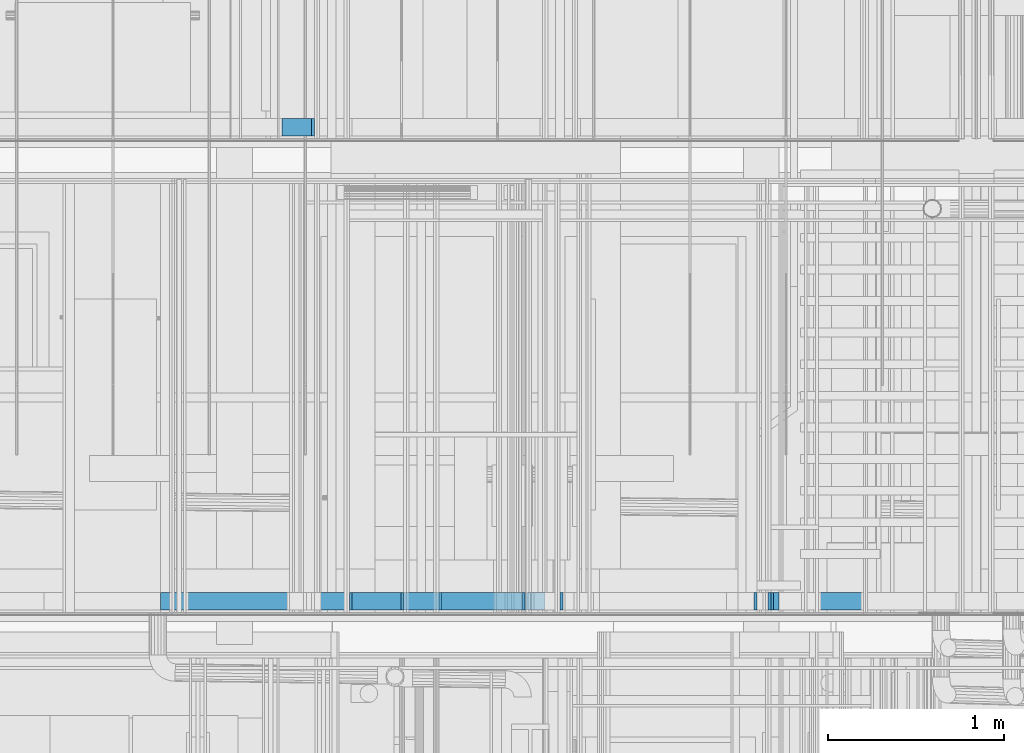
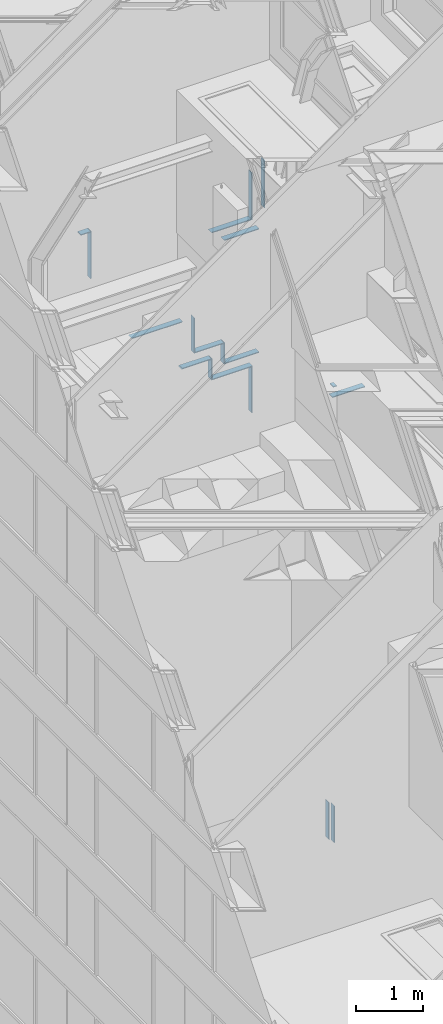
# One storey, part 238 of 583: 19 building element parts, 12 elements without a shape of their own.
"""IFC2X3 building model written with IfcOpenShell, lengths in metres."""

from ifc_helpers import new_model, entity, si_unit, converted_unit, derived_unit, money_unit, direction, frame, frame_2d, origin_with_axes, place, context, subcontext, project, spatial, polyline, rectangle, outline, extrude, material, type_object, element, aggregate, save


model = new_model("IFC2X3")

# Units and contexts
model_context = context("Model", 3, precision=1e-05, world=origin_with_axes(), true_north=direction((0.0, 1.0)))
body_context = subcontext(model_context, "Body", "Model", "MODEL_VIEW", scale=1.0)
ifc_project = project(units=[si_unit("LENGTHUNIT", "METRE"), si_unit("AREAUNIT", "SQUARE_METRE"), si_unit("VOLUMEUNIT", "CUBIC_METRE"), si_unit("ABSORBEDDOSEUNIT", "GRAY"), si_unit("AMOUNTOFSUBSTANCEUNIT", "MOLE"), si_unit("DOSEEQUIVALENTUNIT", "SIEVERT"), si_unit("ELECTRICCAPACITANCEUNIT", "FARAD"), si_unit("ELECTRICCHARGEUNIT", "COULOMB"), si_unit("ELECTRICCONDUCTANCEUNIT", "SIEMENS"), si_unit("ELECTRICCURRENTUNIT", "AMPERE"), si_unit("ELECTRICRESISTANCEUNIT", "OHM"), si_unit("ELECTRICVOLTAGEUNIT", "VOLT"), si_unit("ENERGYUNIT", "JOULE"), si_unit("FORCEUNIT", "NEWTON"), si_unit("FREQUENCYUNIT", "HERTZ"), si_unit("ILLUMINANCEUNIT", "LUX"), si_unit("INDUCTANCEUNIT", "HENRY"), si_unit("LUMINOUSFLUXUNIT", "LUMEN"), si_unit("LUMINOUSINTENSITYUNIT", "CANDELA"), si_unit("MAGNETICFLUXDENSITYUNIT", "TESLA"), si_unit("MAGNETICFLUXUNIT", "WEBER"), si_unit("MASSUNIT", "GRAM"), converted_unit("PLANEANGLEUNIT", "degree", entity("IfcReal", 0.0174532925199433), si_unit("PLANEANGLEUNIT", "RADIAN"), dimensions=[0, 0, 0, 0, 0, 0, 0]), si_unit("POWERUNIT", "WATT"), si_unit("PRESSUREUNIT", "PASCAL"), si_unit("RADIOACTIVITYUNIT", "BECQUEREL"), si_unit("SOLIDANGLEUNIT", "STERADIAN"), si_unit("THERMODYNAMICTEMPERATUREUNIT", "KELVIN"), si_unit("TIMEUNIT", "SECOND"), derived_unit("ACCELERATIONUNIT", [(si_unit("LENGTHUNIT", "METRE"), 1), (si_unit("TIMEUNIT", "SECOND"), -2)]), derived_unit("ANGULARVELOCITYUNIT", [(converted_unit("PLANEANGLEUNIT", "degree", entity("IfcReal", 0.0174532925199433), si_unit("PLANEANGLEUNIT", "RADIAN"), dimensions=[0, 0, 0, 0, 0, 0, 0]), 1), (si_unit("TIMEUNIT", "SECOND"), -1)]), derived_unit("CURVATUREUNIT", [(converted_unit("PLANEANGLEUNIT", "degree", entity("IfcReal", 0.0174532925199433), si_unit("PLANEANGLEUNIT", "RADIAN"), dimensions=[0, 0, 0, 0, 0, 0, 0]), 1), (si_unit("LENGTHUNIT", "METRE"), -1)]), derived_unit("DYNAMICVISCOSITYUNIT", [(si_unit("PRESSUREUNIT", "PASCAL"), 1), (si_unit("TIMEUNIT", "SECOND"), 1)]), derived_unit("HEATFLUXDENSITYUNIT", [(si_unit("POWERUNIT", "WATT"), 1), (si_unit("LENGTHUNIT", "METRE"), -2)]), derived_unit("HEATINGVALUEUNIT", [(si_unit("ENERGYUNIT", "JOULE"), 1), (si_unit("MASSUNIT", "GRAM"), -1)]), derived_unit("INTEGERCOUNTRATEUNIT", [(si_unit("TIMEUNIT", "SECOND"), -1)]), derived_unit("IONCONCENTRATIONUNIT", [(si_unit("MASSUNIT", "GRAM"), 1), (si_unit("VOLUMEUNIT", "CUBIC_METRE"), -1)]), derived_unit("ISOTHERMALMOISTURECAPACITYUNIT", [(si_unit("VOLUMEUNIT", "CUBIC_METRE"), 1), (si_unit("MASSUNIT", "GRAM"), -1)]), derived_unit("KINEMATICVISCOSITYUNIT", [(si_unit("AREAUNIT", "SQUARE_METRE"), 1), (si_unit("TIMEUNIT", "SECOND"), -1)]), derived_unit("LINEARFORCEUNIT", [(si_unit("FORCEUNIT", "NEWTON"), 1), (si_unit("LENGTHUNIT", "METRE"), -1)]), derived_unit("LINEARMOMENTUNIT", [(si_unit("FORCEUNIT", "NEWTON"), 1), (si_unit("LENGTHUNIT", "METRE"), -1)]), derived_unit("LINEARSTIFFNESSUNIT", [(si_unit("FORCEUNIT", "NEWTON"), 1), (si_unit("LENGTHUNIT", "METRE"), -1)]), derived_unit("LINEARVELOCITYUNIT", [(si_unit("LENGTHUNIT", "METRE"), 1), (si_unit("TIMEUNIT", "SECOND"), -1)]), derived_unit("LUMINOUSINTENSITYDISTRIBUTIONUNIT", [(si_unit("LUMINOUSINTENSITYUNIT", "CANDELA"), 1), (si_unit("LUMINOUSFLUXUNIT", "LUMEN"), -1)]), derived_unit("MASSDENSITYUNIT", [(si_unit("MASSUNIT", "GRAM"), 1), (si_unit("VOLUMEUNIT", "CUBIC_METRE"), -1)]), derived_unit("MASSFLOWRATEUNIT", [(si_unit("MASSUNIT", "GRAM"), 1), (si_unit("TIMEUNIT", "SECOND"), -1)]), derived_unit("MASSPERLENGTHUNIT", [(si_unit("MASSUNIT", "GRAM"), 1), (si_unit("LENGTHUNIT", "METRE"), -1)]), derived_unit("MODULUSOFELASTICITYUNIT", [(si_unit("FORCEUNIT", "NEWTON"), 1), (si_unit("AREAUNIT", "SQUARE_METRE"), -1)]), derived_unit("MODULUSOFLINEARSUBGRADEREACTIONUNIT", [(si_unit("FORCEUNIT", "NEWTON"), 1), (si_unit("LENGTHUNIT", "METRE"), -2)]), derived_unit("MODULUSOFROTATIONALSUBGRADEREACTIONUNIT", [(si_unit("FORCEUNIT", "NEWTON"), 1), (si_unit("LENGTHUNIT", "METRE"), 1)]), derived_unit("MODULUSOFSUBGRADEREACTIONUNIT", [(si_unit("FORCEUNIT", "NEWTON"), 1), (si_unit("VOLUMEUNIT", "CUBIC_METRE"), -1)]), derived_unit("MOISTUREDIFFUSIVITYUNIT", [(si_unit("VOLUMEUNIT", "CUBIC_METRE"), 1), (si_unit("TIMEUNIT", "SECOND"), -1)]), derived_unit("MOLECULARWEIGHTUNIT", [(si_unit("MASSUNIT", "GRAM"), 1), (si_unit("AMOUNTOFSUBSTANCEUNIT", "MOLE"), -1)]), derived_unit("PLANARFORCEUNIT", [(si_unit("FORCEUNIT", "NEWTON"), 1), (si_unit("LENGTHUNIT", "METRE"), -2)]), derived_unit("ROTATIONALFREQUENCYUNIT", [(si_unit("TIMEUNIT", "SECOND"), -1)]), derived_unit("ROTATIONALMASSUNIT", [(si_unit("MASSUNIT", "GRAM"), 1), (si_unit("LENGTHUNIT", "METRE"), 2)]), derived_unit("ROTATIONALSTIFFNESSUNIT", [(si_unit("FORCEUNIT", "NEWTON"), 1), (si_unit("LENGTHUNIT", "METRE"), 1), (converted_unit("PLANEANGLEUNIT", "degree", entity("IfcReal", 0.0174532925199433), si_unit("PLANEANGLEUNIT", "RADIAN"), dimensions=[0, 0, 0, 0, 0, 0, 0]), -1)]), derived_unit("SECTIONAREAINTEGRALUNIT", [(si_unit("LENGTHUNIT", "METRE"), 5)]), derived_unit("SECTIONMODULUSUNIT", [(si_unit("LENGTHUNIT", "METRE"), 3)]), derived_unit("SHEARMODULUSUNIT", [(si_unit("FORCEUNIT", "NEWTON"), 1), (si_unit("AREAUNIT", "SQUARE_METRE"), -1)]), derived_unit("SOUNDPOWERUNIT", [(si_unit("ENERGYUNIT", "JOULE"), 1), (si_unit("TIMEUNIT", "SECOND"), -1)]), derived_unit("SPECIFICHEATCAPACITYUNIT", [(si_unit("FORCEUNIT", "NEWTON"), 1), (si_unit("MASSUNIT", "GRAM"), -1), (si_unit("THERMODYNAMICTEMPERATUREUNIT", "KELVIN"), -1)]), derived_unit("TEMPERATUREGRADIENTUNIT", [(si_unit("THERMODYNAMICTEMPERATUREUNIT", "KELVIN"), 1), (si_unit("LENGTHUNIT", "METRE"), -1)]), derived_unit("THERMALADMITTANCEUNIT", [(si_unit("POWERUNIT", "WATT"), 1), (si_unit("AREAUNIT", "SQUARE_METRE"), -1), (si_unit("THERMODYNAMICTEMPERATUREUNIT", "KELVIN"), -1)]), derived_unit("THERMALCONDUCTANCEUNIT", [(si_unit("POWERUNIT", "WATT"), 1), (si_unit("LENGTHUNIT", "METRE"), -1), (si_unit("THERMODYNAMICTEMPERATUREUNIT", "KELVIN"), -1)]), derived_unit("THERMALEXPANSIONCOEFFICIENTUNIT", [(si_unit("THERMODYNAMICTEMPERATUREUNIT", "KELVIN"), -1)]), derived_unit("THERMALRESISTANCEUNIT", [(si_unit("AREAUNIT", "SQUARE_METRE"), 1), (si_unit("POWERUNIT", "WATT"), -1)]), derived_unit("THERMALTRANSMITTANCEUNIT", [(si_unit("POWERUNIT", "WATT"), 1), (si_unit("AREAUNIT", "SQUARE_METRE"), -1), (si_unit("THERMODYNAMICTEMPERATUREUNIT", "KELVIN"), -1)]), derived_unit("TORQUEUNIT", [(si_unit("FORCEUNIT", "NEWTON"), 1), (si_unit("LENGTHUNIT", "METRE"), 1)]), derived_unit("VAPORPERMEABILITYUNIT", [(si_unit("MASSUNIT", "GRAM"), 1), (si_unit("TIMEUNIT", "SECOND"), -1)]), derived_unit("VOLUMETRICFLOWRATEUNIT", [(si_unit("VOLUMEUNIT", "CUBIC_METRE"), 1), (si_unit("TIMEUNIT", "SECOND"), -1)]), derived_unit("WARPINGCONSTANTUNIT", [(si_unit("LENGTHUNIT", "METRE"), 6)]), derived_unit("WARPINGMOMENTUNIT", [(si_unit("FORCEUNIT", "NEWTON"), 1), (si_unit("LENGTHUNIT", "METRE"), 2)]), money_unit("GBP")], contexts=[model_context])

# Site, building, storey
site_placement = place(None, origin_with_axes())
site = spatial("IfcSite", under=ifc_project, at=site_placement, Name="Site", CompositionType="ELEMENT")
building_placement = place(site_placement, origin_with_axes())
building = spatial("IfcBuilding", under=site, at=building_placement, Name="Building01", CompositionType="ELEMENT")
storey_placement = place(building_placement, frame((0.0, 0.0, 20.78), z_axis=(0.0, 0.0, 1.0), x_axis=(1.0, 0.0, 0.0)))
storey = spatial("IfcBuildingStorey", under=building, at=storey_placement, Name="RL", CompositionType="ELEMENT", Elevation=20.78)

# Wall, building element parts
wall_type_1 = type_object("IfcWallType", Name="SHE_A-Walls_Type03a_BlockworkWall_170mm", PredefinedType="NOTDEFINED")
wall_1_placement = place(storey_placement, frame((6.263, 14.98, -9.635), z_axis=(0.0, 1.0, 0.0), x_axis=(1.0, 0.0, 0.0)))
wall_1 = element("IfcWall", 1, at=wall_1_placement, inside=storey, type_object=wall_type_1, Name="4B", ObjectType="SHE_A-Walls_Type03a_BlockworkWall_170mm")
ifc_material = material(Name="A_BSUK_Walls_Timber")
placement_1 = place(wall_1_placement, origin_with_axes())
building_element_part_1 = element("IfcBuildingElementPart", 2, at=placement_1, material=ifc_material, Name="2", context=body_context, shape_type="SweptSolid", body=[
    extrude(rectangle(XDim=0.557, YDim=0.015, at=frame_2d((0.2655, 0.0225), x_axis=(-1.0, 0.0))), frame((0.0, 0.0, 0.015), z_axis=(0.0, 0.0, 1.0), x_axis=(1.0, 0.0, 0.0)), (0.0, 0.0, 1.0), 0.1),
])
building_element_part_2 = element("IfcBuildingElementPart", 3, at=placement_1, material=ifc_material, Name="5", context=body_context, shape_type="SweptSolid", body=[
    extrude(rectangle(XDim=0.062, YDim=0.015, at=frame_2d((0.031, -0.1625), x_axis=(-1.0, 0.0))), frame((0.0, 0.0, 0.015), z_axis=(0.0, 0.0, 1.0), x_axis=(1.0, 0.0, 0.0)), (0.0, 0.0, 1.0), 0.1),
])
aggregate(wall_1, [building_element_part_1, building_element_part_2])

wall_type_2 = type_object("IfcWallType", Name="SHE_A-Walls_Type01d_Partywall_200mm_twin", PredefinedType="NOTDEFINED")
wall_2_placement = place(storey_placement, frame((5.005, 14.98, -8.53), z_axis=(0.0, 1.0, 0.0), x_axis=(-1.0, 0.0, 0.0)))
wall_2 = element("IfcWall", 4, at=wall_2_placement, inside=storey, type_object=wall_type_2, Name="1D", ObjectType="SHE_A-Walls_Type01d_Partywall_200mm_twin")
placement_2 = place(wall_2_placement, origin_with_axes())
building_element_part_3 = element("IfcBuildingElementPart", 5, at=placement_2, material=ifc_material, Name="2", context=body_context, shape_type="SweptSolid", body=[
    extrude(outline(polyline([(0.600572, 0.14), (0.012, 0.14), (0.012, 0.125), (0.615572, 0.125), (0.600572, 0.14)])), frame((0.0, 0.0, 0.015), z_axis=(0.0, 0.0, 1.0), x_axis=(1.0, 0.0, 0.0)), (0.0, 0.0, 1.0), 0.1),
])
building_element_part_4 = element("IfcBuildingElementPart", 6, at=placement_2, material=ifc_material, Name="7", context=body_context, shape_type="SweptSolid", body=[
    extrude(outline(polyline([(0.815572, -0.075), (0.125, -0.075), (0.125, -0.09), (0.830572, -0.09), (0.815572, -0.075)])), frame((0.0, 0.0, 0.015), z_axis=(0.0, 0.0, 1.0), x_axis=(1.0, 0.0, 0.0)), (0.0, 0.0, 1.0), 0.1),
])
aggregate(wall_2, [building_element_part_3, building_element_part_4])

wall_3_placement = place(storey_placement, frame((5.005, 14.98, -6.08), z_axis=(0.0, 1.0, 0.0), x_axis=(-1.0, 0.0, 0.0)))
wall_3 = element("IfcWall", 7, at=wall_3_placement, inside=storey, type_object=wall_type_2, Name="1D", ObjectType="SHE_A-Walls_Type01d_Partywall_200mm_twin")
placement_3 = place(wall_3_placement, origin_with_axes())
building_element_part_5 = element("IfcBuildingElementPart", 8, at=placement_3, material=ifc_material, Name="2", context=body_context, shape_type="SweptSolid", body=[
    extrude(outline(polyline([(0.830572, 0.14), (0.14, 0.14), (0.14, 0.125), (0.815572, 0.125), (0.830572, 0.14)])), frame((0.0, 0.0, 0.015), z_axis=(0.0, 0.0, 1.0), x_axis=(1.0, 0.0, 0.0)), (0.0, 0.0, 1.0), 0.1),
])
building_element_part_6 = element("IfcBuildingElementPart", 9, at=placement_3, material=ifc_material, Name="7", context=body_context, shape_type="SweptSolid", body=[
    extrude(outline(polyline([(0.615572, -0.075), (0.012, -0.075), (0.012, -0.09), (0.600572, -0.09), (0.615572, -0.075)])), frame((0.0, 0.0, 0.015), z_axis=(0.0, 0.0, 1.0), x_axis=(1.0, 0.0, 0.0)), (0.0, 0.0, 1.0), 0.1),
])
aggregate(wall_3, [building_element_part_5, building_element_part_6])

wall_type_3 = type_object("IfcWallType", Name="SHE_A-Walls_Type05b_Partition_80mm", PredefinedType="NOTDEFINED")
wall_4_placement = place(storey_placement, frame((6.227939, 14.98, -17.012889), z_axis=(0.0, 1.0, 0.0), x_axis=(0.0, 0.0, -1.0)))
wall_4 = element("IfcWall", 10, at=wall_4_placement, inside=storey, type_object=wall_type_3, Name="5B", ObjectType="SHE_A-Walls_Type05b_Partition_80mm")
placement_4 = place(wall_4_placement, origin_with_axes())
building_element_part_7 = element("IfcBuildingElementPart", 11, at=placement_4, material=ifc_material, Name="2", context=body_context, shape_type="SweptSolid", body=[
    extrude(outline(polyline([(0.632135, 0.043), (-0.043, 0.043), (-0.028, 0.028), (0.647135, 0.028), (0.632135, 0.043)])), frame((0.0, 0.0, 0.015), z_axis=(0.0, 0.0, 1.0), x_axis=(1.0, 0.0, 0.0)), (0.0, 0.0, 1.0), 0.1),
])
building_element_part_8 = element("IfcBuildingElementPart", 12, at=placement_4, material=ifc_material, Name="5", context=body_context, shape_type="SweptSolid", body=[
    extrude(outline(polyline([(0.052, -0.052), (0.067, -0.067), (0.727135, -0.067), (0.727135, -0.052), (0.052, -0.052)])), frame((0.0, 0.0, 0.015), z_axis=(0.0, 0.0, 1.0), x_axis=(1.0, 0.0, 0.0)), (0.0, 0.0, 1.0), 0.1),
])
aggregate(wall_4, [building_element_part_7, building_element_part_8])

# Wall, building element part
wall_5_placement = place(storey_placement, frame((3.805, 14.98, -7.305), z_axis=(0.0, 1.0, 0.0), x_axis=(-1.0, 0.0, 0.0)))
wall_5 = element("IfcWall", 13, at=wall_5_placement, inside=storey, type_object=wall_type_2, Name="1D", ObjectType="SHE_A-Walls_Type01d_Partywall_200mm_twin")
building_element_part_9_placement = place(wall_5_placement, origin_with_axes())
building_element_part_9 = element("IfcBuildingElementPart", 14, at=building_element_part_9_placement, material=ifc_material, Name="7", context=body_context, shape_type="SweptSolid", body=[
    extrude(outline(polyline([(1.000239, -0.075), (0.125, -0.075), (0.14, -0.09), (0.950239, -0.09), (1.000239, -0.075)])), frame((0.0, 0.0, 0.015), z_axis=(0.0, 0.0, 1.0), x_axis=(1.0, 0.0, 0.0)), (0.0, 0.0, 1.0), 0.1),
])
aggregate(wall_5, [building_element_part_9])

wall_6_placement = place(storey_placement, frame((3.78, 14.98, -8.13), z_axis=(0.0, 1.0, 0.0), x_axis=(0.0, 0.0, 1.0)))
wall_6 = element("IfcWall", 15, at=wall_6_placement, inside=storey, type_object=wall_type_2, Name="1D", ObjectType="SHE_A-Walls_Type01d_Partywall_200mm_twin")
building_element_part_10_placement = place(wall_6_placement, origin_with_axes())
building_element_part_10 = element("IfcBuildingElementPart", 16, at=building_element_part_10_placement, material=ifc_material, Name="2", context=body_context, shape_type="SweptSolid", body=[
    extrude(outline(polyline([(0.735, 0.115), (0.115, 0.115), (0.1, 0.1), (0.75, 0.1), (0.735, 0.115)])), frame((0.0, 0.0, 0.015), z_axis=(0.0, 0.0, 1.0), x_axis=(1.0, 0.0, 0.0)), (0.0, 0.0, 1.0), 0.1),
])
aggregate(wall_6, [building_element_part_10])

# Wall, building element parts
wall_7_placement = place(storey_placement, frame((4.264428, 14.98, -8.13), z_axis=(0.0, 1.0, 0.0), x_axis=(-1.0, 0.0, 0.0)))
wall_7 = element("IfcWall", 17, at=wall_7_placement, inside=storey, type_object=wall_type_2, Name="1D", ObjectType="SHE_A-Walls_Type01d_Partywall_200mm_twin")
placement_5 = place(wall_7_placement, origin_with_axes())
building_element_part_11 = element("IfcBuildingElementPart", 18, at=placement_5, material=ifc_material, Name="2", context=body_context, shape_type="SweptSolid", body=[
    extrude(outline(polyline([(0.369428, 0.115), (-0.125, 0.115), (-0.125, 0.1), (0.384428, 0.1), (0.369428, 0.115)])), frame((0.0, 0.0, 0.015), z_axis=(0.0, 0.0, 1.0), x_axis=(1.0, 0.0, 0.0)), (0.0, 0.0, 1.0), 0.1),
])
building_element_part_12 = element("IfcBuildingElementPart", 19, at=placement_5, material=ifc_material, Name="7", context=body_context, shape_type="SweptSolid", body=[
    extrude(outline(polyline([(0.584428, -0.1), (0.09, -0.1), (0.09, -0.115), (0.599428, -0.115), (0.584428, -0.1)])), frame((0.0, 0.0, 0.015), z_axis=(0.0, 0.0, 1.0), x_axis=(1.0, 0.0, 0.0)), (0.0, 0.0, 1.0), 0.1),
])
aggregate(wall_7, [building_element_part_11, building_element_part_12])

wall_8_placement = place(storey_placement, frame((4.314428, 14.98, -6.08), z_axis=(0.0, 1.0, 0.0), x_axis=(0.0, 0.0, -1.0)))
wall_8 = element("IfcWall", 20, at=wall_8_placement, inside=storey, type_object=wall_type_2, Name="1D", ObjectType="SHE_A-Walls_Type01d_Partywall_200mm_twin")
placement_6 = place(wall_8_placement, origin_with_axes())
building_element_part_13 = element("IfcBuildingElementPart", 21, at=placement_6, material=ifc_material, Name="9", context=body_context, shape_type="SweptSolid", body=[
    extrude(outline(polyline([(2.325, -0.075), (1.935, -0.075), (1.935, -0.09), (2.31, -0.09), (2.325, -0.075)])), frame((0.0, 0.0, 0.015), z_axis=(0.0, 0.0, 1.0), x_axis=(1.0, 0.0, 0.0)), (0.0, 0.0, 1.0), 0.1),
])
building_element_part_14 = element("IfcBuildingElementPart", 22, at=placement_6, material=ifc_material, Name="12", context=body_context, shape_type="SweptSolid", body=[
    extrude(outline(polyline([(2.54, 0.14), (2.15, 0.14), (2.15, 0.125), (2.525, 0.125), (2.54, 0.14)])), frame((0.0, 0.0, 0.015), z_axis=(0.0, 0.0, 1.0), x_axis=(1.0, 0.0, 0.0)), (0.0, 0.0, 1.0), 0.1),
])
aggregate(wall_8, [building_element_part_13, building_element_part_14])

wall_9_placement = place(storey_placement, frame((4.955, 14.98, -6.03), z_axis=(0.0, 1.0, 0.0), x_axis=(0.0, 0.0, 1.0)))
wall_9 = element("IfcWall", 23, at=wall_9_placement, inside=storey, type_object=wall_type_2, Name="1D", ObjectType="SHE_A-Walls_Type01d_Partywall_200mm_twin")
placement_7 = place(wall_9_placement, origin_with_axes())
building_element_part_15 = element("IfcBuildingElementPart", 24, at=placement_7, material=ifc_material, Name="2", context=body_context, shape_type="SweptSolid", body=[
    extrude(rectangle(XDim=0.854891, YDim=0.015, at=frame_2d((0.645994, 0.1325), x_axis=(-1.0, 0.0))), frame((0.0, 0.0, 0.015), z_axis=(0.0, 0.0, 1.0), x_axis=(1.0, 0.0, 0.0)), (0.0, 0.0, 1.0), 0.1),
])
building_element_part_16 = element("IfcBuildingElementPart", 25, at=placement_7, material=ifc_material, Name="7", context=body_context, shape_type="SweptSolid", body=[
    extrude(rectangle(XDim=0.85, YDim=0.015, at=frame_2d((0.5, -0.0825), x_axis=(-1.0, 0.0))), frame((0.0, 0.0, 0.015), z_axis=(0.0, 0.0, 1.0), x_axis=(1.0, 0.0, 0.0)), (0.0, 0.0, 1.0), 0.1),
])
aggregate(wall_9, [building_element_part_15, building_element_part_16])

# Wall, building element part
wall_10_placement = place(storey_placement, frame((4.955, 14.98, -11.565), z_axis=(0.0, 1.0, 0.0), x_axis=(0.0, 0.0, 1.0)))
wall_10 = element("IfcWall", 26, at=wall_10_placement, inside=storey, type_object=wall_type_2, Name="1D", ObjectType="SHE_A-Walls_Type01d_Partywall_200mm_twin")
building_element_part_17_placement = place(wall_10_placement, origin_with_axes())
building_element_part_17 = element("IfcBuildingElementPart", 27, at=building_element_part_17_placement, material=ifc_material, Name="8", context=body_context, shape_type="SweptSolid", body=[
    extrude(rectangle(XDim=0.835, YDim=0.015, at=frame_2d((2.5275, -0.0825), x_axis=(-1.0, 0.0))), frame((0.0, 0.0, 0.015), z_axis=(0.0, 0.0, 1.0), x_axis=(1.0, 0.0, 0.0)), (0.0, 0.0, 1.0), 0.1),
])
aggregate(wall_10, [building_element_part_17])

wall_11_placement = place(storey_placement, frame((3.755, 17.68, -8.155), z_axis=(0.0, 1.0, 0.0), x_axis=(0.0, 0.0, 1.0)))
wall_11 = element("IfcWall", 28, at=wall_11_placement, inside=storey, type_object=wall_type_2, Name="1D", ObjectType="SHE_A-Walls_Type01d_Partywall_200mm_twin")
building_element_part_18_placement = place(wall_11_placement, origin_with_axes())
building_element_part_18 = element("IfcBuildingElementPart", 29, at=building_element_part_18_placement, material=ifc_material, Name="7", context=body_context, shape_type="SweptSolid", body=[
    extrude(outline(polyline([(0.775, -0.075), (-0.075, -0.075), (-0.09, -0.09), (0.775, -0.09), (0.775, -0.075)])), frame((0.0, 0.0, 0.015), z_axis=(0.0, 0.0, 1.0), x_axis=(1.0, 0.0, 0.0)), (0.0, 0.0, 1.0), 0.1),
])
aggregate(wall_11, [building_element_part_18])

wall_12_placement = place(storey_placement, frame((7.349939, 17.68, -7.305), z_axis=(0.0, 1.0, 0.0), x_axis=(-1.0, 0.0, 0.0)))
wall_12 = element("IfcWall", 30, at=wall_12_placement, inside=storey, type_object=wall_type_2, Name="1D", ObjectType="SHE_A-Walls_Type01d_Partywall_200mm_twin")
building_element_part_19_placement = place(wall_12_placement, origin_with_axes())
building_element_part_19 = element("IfcBuildingElementPart", 31, at=building_element_part_19_placement, material=ifc_material, Name="8", context=body_context, shape_type="SweptSolid", body=[
    extrude(rectangle(XDim=0.170061, YDim=0.015, at=frame_2d((3.76997, -0.0825), x_axis=(-1.0, 0.0))), frame((0.0, 0.0, 0.015), z_axis=(0.0, 0.0, 1.0), x_axis=(1.0, 0.0, 0.0)), (0.0, 0.0, 1.0), 0.1),
])
aggregate(wall_12, [building_element_part_19])

save(model, "model.ifc")
